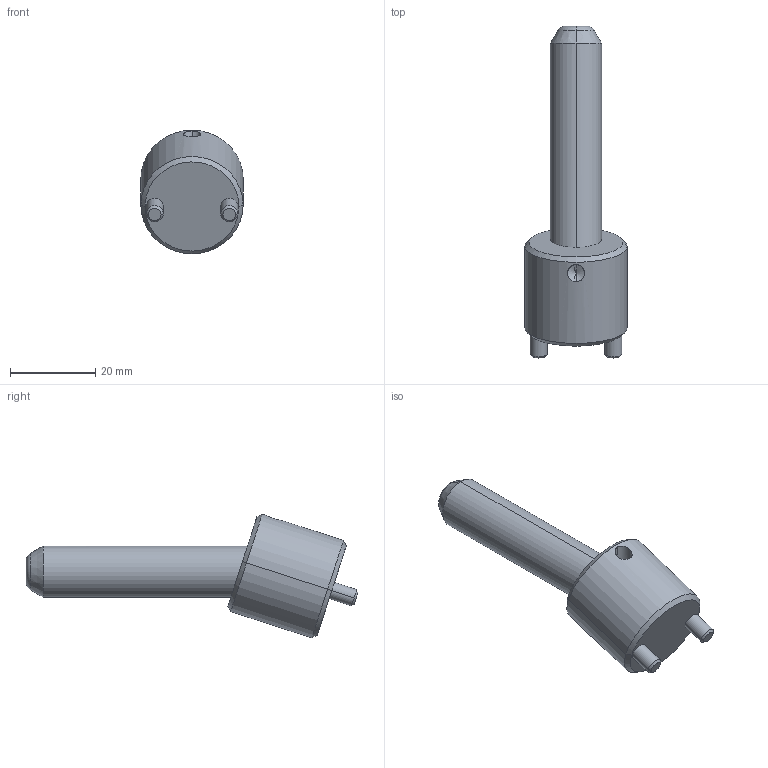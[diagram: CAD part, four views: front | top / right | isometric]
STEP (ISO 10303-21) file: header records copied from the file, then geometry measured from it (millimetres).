
FILE_DESCRIPTION(('CATIA V5 STEP Exchange'),'2;1');
FILE_NAME('C:\Users\Raffaele\Desktop\3D BOLEX\3D FILES CF BOLEX\19-INCLINED ASSEMBLY REF_CI\CI1812050.stp','2019-06-21T12:57:10+00:00',('none'),('none'),'CATIA Version 5 Release 20 GA (IN-10)','CATIA V5 STEP AP203','none');
FILE_SCHEMA(('CONFIG_CONTROL_DESIGN'));
Length unit declared in the file: millimetre
Products named in the file (1): CI1812050
Assembly tree (2 placements, depth 2):
  CI1812050
    #58
    #560
Bounding box: 24 x 77.87 x 29.01 mm (x, y, z)
Volume: 15371.6 mm3; surface area: 6075 mm2
Topology: 2 solids, 2 shells, 39 faces, 82 edges, 47 vertices
Faces by surface type: cone 14, cylinder 14, plane 7, torus 4
Entity records: 1452 total; most frequent: CARTESIAN_POINT 593, ORIENTED_EDGE 160, DIRECTION 145, EDGE_CURVE 80, AXIS2_PLACEMENT_3D 72, VERTEX_POINT 47, EDGE_LOOP 43, ADVANCED_FACE 39
